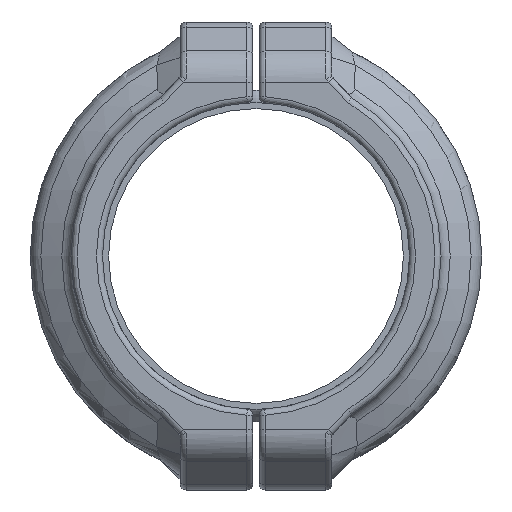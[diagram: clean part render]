
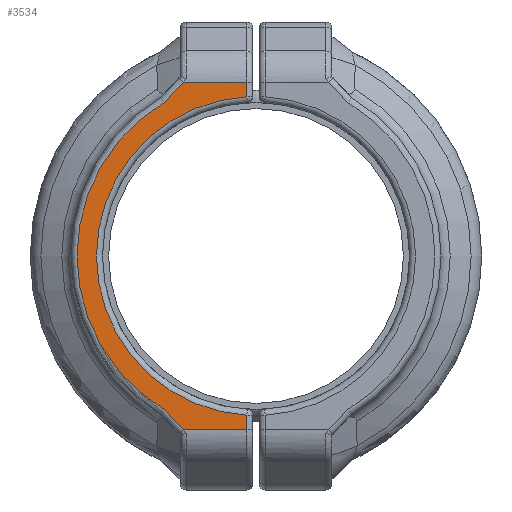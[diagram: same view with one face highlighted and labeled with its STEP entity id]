
A CAD part, left-side view. The second image highlights one B-rep face of the part: STEP entity #3534.
In plain terms, the highlighted planar face has unit normal (-1, 0, 0) as drawn and (1, 0, 0) by its records, which use the part's own axes.
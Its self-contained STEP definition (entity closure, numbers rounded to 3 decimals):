
#1005=CARTESIAN_POINT('',(39.75,0.,0.));
#1006=DIRECTION('',(-1.,0.,0.));
#1007=DIRECTION('',(0.,-0.998,0.057));
#1008=AXIS2_PLACEMENT_3D('',#1005,#1006,#1007);
#1013=DIRECTION('',(0.,-1.,0.));
#1014=VECTOR('',#1013,2.396);
#1015=CARTESIAN_POINT('',(39.75,-26.207,1.5));
#1016=LINE('',#1015,#1014);
#1020=DIRECTION('',(0.,-0.728,-0.686));
#1021=VECTOR('',#1020,4.554);
#1022=CARTESIAN_POINT('',(39.75,-25.289,15.092));
#1023=LINE('',#1022,#1021);
#1027=CARTESIAN_POINT('',(39.75,0.,0.));
#1028=DIRECTION('',(-1.,0.,0.));
#1029=DIRECTION('',(0.,-0.859,0.512));
#1030=AXIS2_PLACEMENT_3D('',#1027,#1028,#1029);
#1035=DIRECTION('',(0.,-0.728,0.686));
#1036=VECTOR('',#1035,4.554);
#1037=CARTESIAN_POINT('',(39.75,28.603,11.968));
#1038=LINE('',#1037,#1036);
#1042=DIRECTION('',(0.,-1.,0.));
#1043=VECTOR('',#1042,2.396);
#1044=CARTESIAN_POINT('',(39.75,28.603,1.5));
#1045=LINE('',#1044,#1043);
#1776=DIRECTION('',(0.,0.,-1.));
#1777=VECTOR('',#1776,10.468);
#1778=CARTESIAN_POINT('',(39.75,28.603,11.968));
#1779=LINE('',#1778,#1777);
#2394=DIRECTION('',(0.,0.,1.));
#2395=VECTOR('',#2394,10.468);
#2396=CARTESIAN_POINT('',(39.75,-28.603,1.5));
#2397=LINE('',#2396,#2395);
#3107=CARTESIAN_POINT('',(39.75,-28.603,1.5));
#3108=CARTESIAN_POINT('',(39.75,-28.603,11.968));
#3109=VERTEX_POINT('',#3107);
#3110=VERTEX_POINT('',#3108);
#3111=CARTESIAN_POINT('',(39.75,28.603,11.968));
#3112=CARTESIAN_POINT('',(39.75,28.603,1.5));
#3113=VERTEX_POINT('',#3111);
#3114=VERTEX_POINT('',#3112);
#3115=CARTESIAN_POINT('',(39.75,25.289,15.092));
#3116=VERTEX_POINT('',#3115);
#3117=CARTESIAN_POINT('',(39.75,-25.289,15.092));
#3118=VERTEX_POINT('',#3117);
#3265=CARTESIAN_POINT('',(39.75,-26.207,1.5));
#3267=VERTEX_POINT('',#3265);
#3268=CARTESIAN_POINT('',(39.75,26.207,1.5));
#3269=VERTEX_POINT('',#3268);
#3512=CARTESIAN_POINT('',(39.75,-30.45,0.));
#3513=DIRECTION('',(1.,0.,0.));
#3514=DIRECTION('',(0.,0.,-1.));
#3515=AXIS2_PLACEMENT_3D('',#3512,#3513,#3514);
#3516=PLANE('',#3515);
#3518=ORIENTED_EDGE('',*,*,#3517,.F.);
#3520=ORIENTED_EDGE('',*,*,#3519,.T.);
#3522=ORIENTED_EDGE('',*,*,#3521,.T.);
#3524=ORIENTED_EDGE('',*,*,#3523,.F.);
#3526=ORIENTED_EDGE('',*,*,#3525,.T.);
#3527=ORIENTED_EDGE('',*,*,#3503,.F.);
#3529=ORIENTED_EDGE('',*,*,#3528,.T.);
#3531=ORIENTED_EDGE('',*,*,#3530,.T.);
#3532=EDGE_LOOP('',(#3518,#3520,#3522,#3524,#3526,#3527,#3529,#3531));
#3533=FACE_OUTER_BOUND('',#3532,.F.);
#1009=CIRCLE('',#1008,26.25);
#1031=CIRCLE('',#1030,29.45);
#3503=EDGE_CURVE('',#3113,#3116,#1038,.T.);
#3517=EDGE_CURVE('',#3267,#3269,#1009,.T.);
#3519=EDGE_CURVE('',#3267,#3109,#1016,.T.);
#3521=EDGE_CURVE('',#3109,#3110,#2397,.T.);
#3523=EDGE_CURVE('',#3118,#3110,#1023,.T.);
#3525=EDGE_CURVE('',#3118,#3116,#1031,.T.);
#3528=EDGE_CURVE('',#3113,#3114,#1779,.T.);
#3530=EDGE_CURVE('',#3114,#3269,#1045,.T.);
#3534=ADVANCED_FACE('',(#3533),#3516,.T.);
